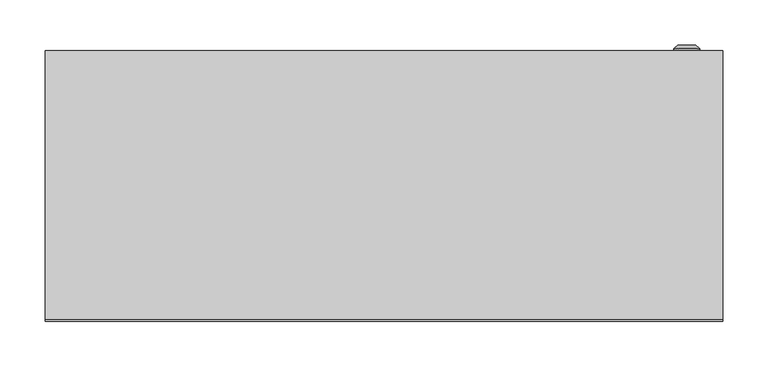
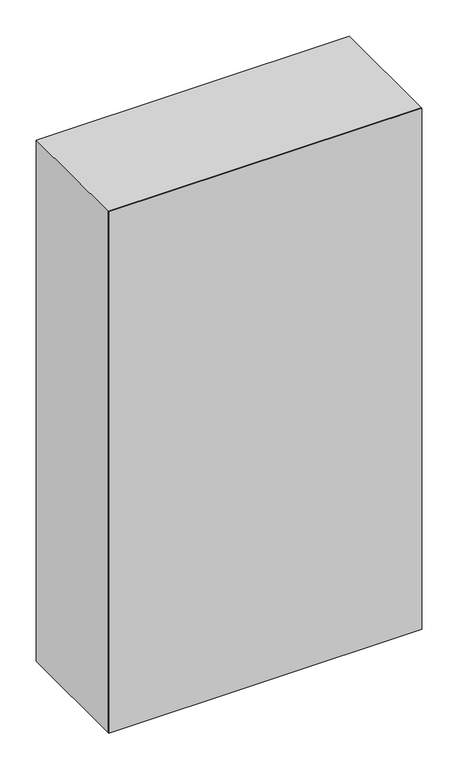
"""IFC4 building model written with IfcOpenShell, lengths in millimetres: proxy geometry, ЩМП : ЩМП-7-0_1320х750х300."""

from ifc_helpers import new_model, si_unit, frame, origin, origin_with_axes, place, context, project, spatial, polyline, circle_curve, outline, extrude, source, transform, mapped, element, save
from ifc_brep_helpers import plane_surface, cylinder_surface, revolved_surface, advanced_brep


def electrical_equipment_f5966138(model_context):
    return source(origin(), model_context, "Body", "SolidModel", [
        advanced_brep(
        [(320.669873, 300.0, 660.0), (349.330127, 300.0, 660.0), (335.0, 300.0, 660.0), (320.669873, 302.366592, 660.0), (349.330127, 302.366592, 660.0), (325.0, 306.0, 660.0), (345.0, 306.0, 660.0), (333.1080471, 306.0, 660.0), (336.8919529, 306.0, 660.0), (333.1080471, 304.9822294, 660.0), (336.8919529, 304.9822294, 660.0), (335.0, 304.9822294, 660.0)],
        [
            (0, 1, circle_curve(frame((335.0, 300.0, 660.0), z_axis=(0.0, -1.0, 0.0), x_axis=(1.0, 0.0, 0.0)), 14.330127)),
            (1, 2),
            (2, 0),
            (1, 0, circle_curve(frame((335.0, 300.0, 660.0), z_axis=(0.0, -1.0, 0.0), x_axis=(1.0, 0.0, 0.0)), 14.330127)),
            (3, 4, circle_curve(frame((335.0, 302.366592, 660.0), z_axis=(0.0, -1.0, 0.0), x_axis=(1.0, 0.0, 0.0)), 14.330127)),
            (4, 1),
            (0, 3),
            (4, 3, circle_curve(frame((335.0, 302.366592, 660.0), z_axis=(0.0, -1.0, 0.0), x_axis=(1.0, 0.0, 0.0)), 14.330127)),
            (5, 6, circle_curve(frame((335.0, 306.0, 660.0), z_axis=(0.0, -1.0, 0.0), x_axis=(1.0, 0.0, 0.0)), 10.0)),
            (6, 4),
            (3, 5),
            (6, 5, circle_curve(frame((335.0, 306.0, 660.0), z_axis=(0.0, -1.0, 0.0), x_axis=(1.0, 0.0, 0.0)), 10.0)),
            (7, 8, circle_curve(frame((335.0, 306.0, 660.0), z_axis=(0.0, -1.0, 0.0), x_axis=(1.0, 0.0, 0.0)), 1.8919529)),
            (8, 6),
            (5, 7),
            (8, 7, circle_curve(frame((335.0, 306.0, 660.0), z_axis=(0.0, -1.0, 0.0), x_axis=(1.0, 0.0, 0.0)), 1.8919529)),
            (9, 10, circle_curve(frame((335.0, 304.9822294, 660.0), z_axis=(0.0, -1.0, 0.0), x_axis=(1.0, 0.0, 0.0)), 1.8919529)),
            (10, 8),
            (7, 9),
            (10, 9, circle_curve(frame((335.0, 304.9822294, 660.0), z_axis=(0.0, -1.0, 0.0), x_axis=(1.0, 0.0, 0.0)), 1.8919529)),
            (11, 10),
            (9, 11),
        ],
        [
            plane_surface(frame((335.0, 300.0, 660.0), z_axis=(0.0, -1.0, 0.0), x_axis=(1.0, 0.0, 0.0))),
            cylinder_surface(frame((335.0, 313.1348851, 660.0), z_axis=(0.0, 1.0, 0.0), x_axis=(1.0, 0.0, 0.0)), 14.330127),
            revolved_surface(polyline([(349.330127, 302.366592, 660.0), (345.0, 306.0, 660.0)]), (335.0, 313.1348851, 660.0), (0.0, 1.0, 0.0)),
            plane_surface(frame((335.0, 306.0, 660.0), z_axis=(0.0, 1.0, 0.0), x_axis=(1.0, 0.0, 0.0))),
            revolved_surface(polyline([(336.8919529, 306.0, 660.0), (336.8919529, 304.9822294, 660.0)]), (335.0, 313.1348851, 660.0), (0.0, 1.0, 0.0)),
            plane_surface(frame((335.0, 304.9822294, 660.0), z_axis=(0.0, 1.0, 0.0), x_axis=(1.0, 0.0, 0.0))),
        ],
        [
            (0, [[1, 2, 3]]),
            (0, [[4, -3, -2]]),
            (1, [[5, 6, -1, 7]]),
            (1, [[8, -7, -4, -6]]),
            (2, [[9, 10, -5, 11]]),
            (2, [[12, -11, -8, -10]]),
            (3, [[13, 14, -9, 15]]),
            (3, [[16, -15, -12, -14]]),
            (4, [[17, 18, -13, 19]]),
            (4, [[20, -19, -16, -18]]),
            (5, [[21, -17, 22]]),
            (5, [[-22, -20, -21]]),
        ],
    ),
        extrude(outline(polyline([(359.0, 275.0), (-359.0, 275.0), (-359.0, 300.0), (359.0, 300.0), (359.0, 275.0)])), frame((0.0, 0.0, 18.5), z_axis=(0.0, 0.0, 1.0), x_axis=(1.0, 0.0, 0.0)), (0.0, 0.0, 1.0), 1283.0),
        extrude(outline(polyline([(1320.0, -375.0033905), (0.0, -375.0033905), (0.0, 374.9966095), (1320.0, 374.9966095), (1320.0, -375.0033905)]), holes=[polyline([(1285.0, -345.0033905), (1285.0, 344.9966095), (35.0, 344.9966095), (35.0, -345.0033905), (1285.0, -345.0033905)])]), frame((0.0, 2.0, 0.0), z_axis=(0.0, 1.0, 0.0), x_axis=(0.0, 0.0, 1.0)), (0.0, 0.0, 1.0), 298.0),
        extrude(outline(polyline([(375.0, 0.0), (-375.0, 0.0), (-375.0, 2.0), (375.0, 2.0), (375.0, 0.0)])), origin_with_axes(), (0.0, 0.0, 1.0), 1320.0),
    ])


if __name__ == "__main__":
    model = new_model("IFC4")
    model_context = context("Model", 3, world=origin())
    ifc_project = project(units=[si_unit("LENGTHUNIT", "METRE", prefix="MILLI")], contexts=[model_context])
    site = spatial("IfcSite", under=ifc_project)
    building = spatial("IfcBuilding", under=site)
    placement = place(None, origin())
    electrical_equipment_shape = electrical_equipment_f5966138(model_context)
    element("IfcBuildingElementProxy", 1, Name="ЩМП : ЩМП-7-0_1320х750х300", ObjectType="ЩМП : ЩМП-7-0_1320х750х300", at=placement, inside=building, context=model_context, shape_type="MappedRepresentation", body=[
        mapped(electrical_equipment_shape, transform((0.0, 0.0, 0.0), x_axis=(1.0, 0.0, 0.0), y_axis=(0.0, 1.0, 0.0), z_axis=(0.0, 0.0, 1.0))),
    ])
    save(model, "model.ifc")
